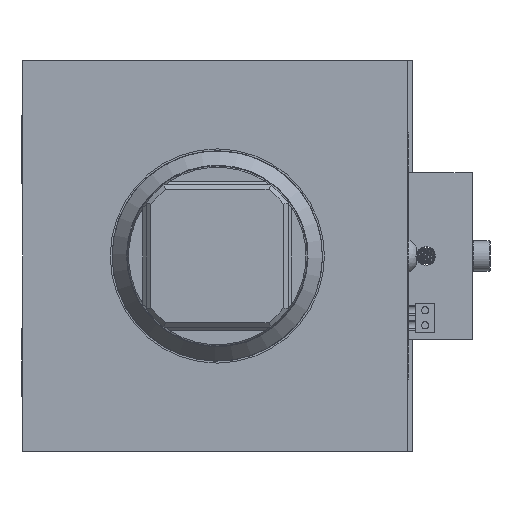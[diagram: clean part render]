
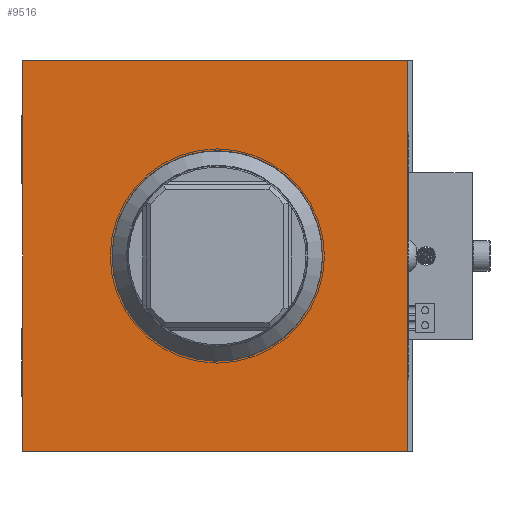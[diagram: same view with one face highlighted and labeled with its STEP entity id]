
A CAD part, front view. The second image highlights one B-rep face of the part: STEP entity #9516.
In plain terms, the highlighted planar face has unit normal (0, -1, 0).
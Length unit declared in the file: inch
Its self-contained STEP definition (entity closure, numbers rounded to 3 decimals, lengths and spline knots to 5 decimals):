
#224=PLANE('',#10474);
#333=FACE_BOUND('',#1411,.T.);
#852=FACE_OUTER_BOUND('',#1410,.T.);
#1410=EDGE_LOOP('',(#7916,#7917,#7918,#7919));
#1411=EDGE_LOOP('',(#7920,#7921));
#1851=CIRCLE('',#10275,1.166);
#1852=CIRCLE('',#10276,1.166);
#2279=LINE('',#18083,#2898);
#2694=LINE('',#22058,#3313);
#2695=LINE('',#22060,#3314);
#2696=LINE('',#22061,#3315);
#2898=VECTOR('',#10980,0.3937);
#3313=VECTOR('',#12857,0.3937);
#3314=VECTOR('',#12858,0.3937);
#3315=VECTOR('',#12859,0.3937);
#3599=VERTEX_POINT('',#18080);
#3600=VERTEX_POINT('',#18082);
#4040=VERTEX_POINT('',#21435);
#4041=VERTEX_POINT('',#21437);
#4213=VERTEX_POINT('',#22057);
#4214=VERTEX_POINT('',#22059);
#4604=EDGE_CURVE('',#3599,#3600,#2279,.T.);
#5258=EDGE_CURVE('',#4040,#4041,#1851,.T.);
#5259=EDGE_CURVE('',#4041,#4040,#1852,.T.);
#5502=EDGE_CURVE('',#4213,#3599,#2694,.T.);
#5503=EDGE_CURVE('',#4214,#4213,#2695,.T.);
#5504=EDGE_CURVE('',#3600,#4214,#2696,.T.);
#7916=ORIENTED_EDGE('',*,*,#4604,.F.);
#7917=ORIENTED_EDGE('',*,*,#5502,.F.);
#7918=ORIENTED_EDGE('',*,*,#5503,.F.);
#7919=ORIENTED_EDGE('',*,*,#5504,.F.);
#7920=ORIENTED_EDGE('',*,*,#5259,.F.);
#7921=ORIENTED_EDGE('',*,*,#5258,.F.);
#9516=ADVANCED_FACE('',(#852,#333),#224,.F.);
#10275=AXIS2_PLACEMENT_3D('',#21438,#12362,#12363);
#10276=AXIS2_PLACEMENT_3D('',#21439,#12364,#12365);
#10474=AXIS2_PLACEMENT_3D('',#22056,#12855,#12856);
#10980=DIRECTION('',(0.,0.,-1.));
#12362=DIRECTION('center_axis',(0.,-1.,0.));
#12363=DIRECTION('ref_axis',(1.,0.,0.));
#12364=DIRECTION('center_axis',(0.,-1.,0.));
#12365=DIRECTION('ref_axis',(1.,0.,0.));
#12855=DIRECTION('center_axis',(0.,1.,0.));
#12856=DIRECTION('ref_axis',(1.,0.,0.));
#12857=DIRECTION('',(1.,0.,0.));
#12858=DIRECTION('',(0.,0.,1.));
#12859=DIRECTION('',(-1.,0.,0.));
#18080=CARTESIAN_POINT('',(2.1105,-11.87902,-42.13458));
#18082=CARTESIAN_POINT('',(2.1105,-11.87902,-46.46558));
#18083=CARTESIAN_POINT('',(2.1105,-11.87902,-44.201));
#21435=CARTESIAN_POINT('',(1.08593,-11.87902,-44.72471));
#21437=CARTESIAN_POINT('',(-1.166,-11.87902,-44.30008));
#21438=CARTESIAN_POINT('Origin',(0.,-11.87902,
-44.30008));
#21439=CARTESIAN_POINT('Origin',(0.,-11.87902,
-44.30008));
#22056=CARTESIAN_POINT('Origin',(-0.0225,-11.87902,
-44.30008));
#22057=CARTESIAN_POINT('',(-2.1555,-11.87902,-42.13458));
#22058=CARTESIAN_POINT('',(-1.094,-11.87902,-42.13458));
#22059=CARTESIAN_POINT('',(-2.1555,-11.87902,-46.46558));
#22060=CARTESIAN_POINT('',(-2.1555,-11.87902,-44.30008));
#22061=CARTESIAN_POINT('',(1.0715,-11.87902,-46.46558));
